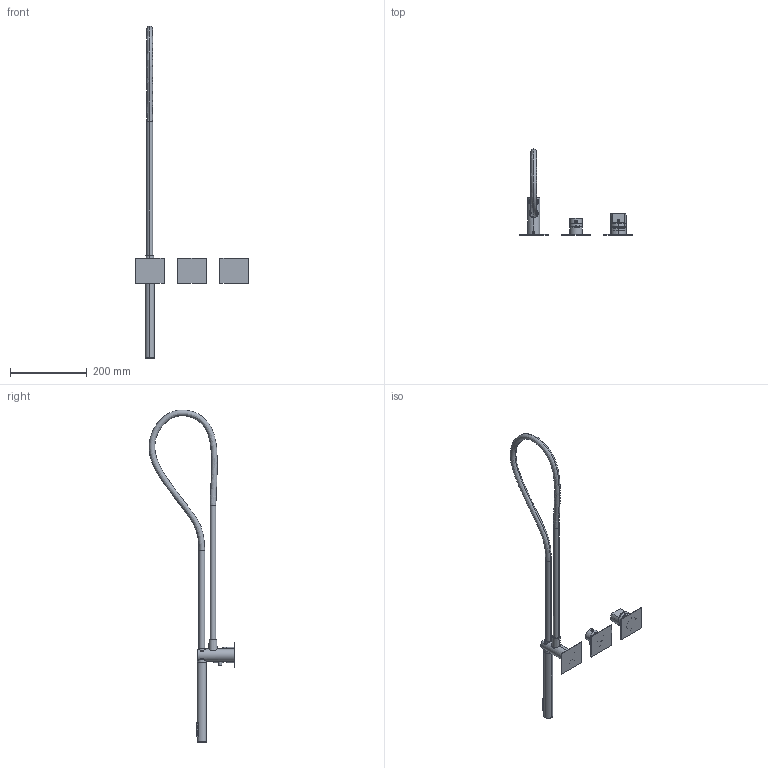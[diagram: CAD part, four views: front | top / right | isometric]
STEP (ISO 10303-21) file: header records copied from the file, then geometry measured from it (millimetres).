
FILE_DESCRIPTION((''),'2;1');
FILE_NAME('89569V221_SW0001','2025-11-21T14:14:17',('carloff'),(''),'CREO PARAMETRIC BY PTC INC, 2022014','CREO PARAMETRIC BY PTC INC, 2022014','');
FILE_SCHEMA(('CONFIG_CONTROL_DESIGN'));
Length unit declared in the file: millimetre
Products named in the file (1): 89569V221_SW0001
Bounding box: 295 x 222.9 x 863.12 mm (x, y, z)
Volume: 488883.6 mm3; surface area: 162373.9 mm2
Topology: 5 solids, 5 shells, 785 faces, 2025 edges, 1293 vertices
Faces by surface type: plane 302, cylinder 264, torus 136, cone 69, bspline 10, sphere 4
Entity records: 30437 total; most frequent: CARTESIAN_POINT 11191, DIRECTION 4073, ORIENTED_EDGE 4026, EDGE_CURVE 2013, AXIS2_PLACEMENT_3D 1577, VERTEX_POINT 1293, VECTOR 919, LINE 919
